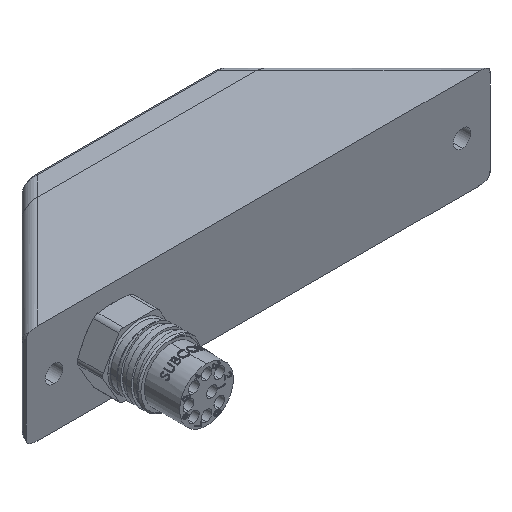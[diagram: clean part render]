
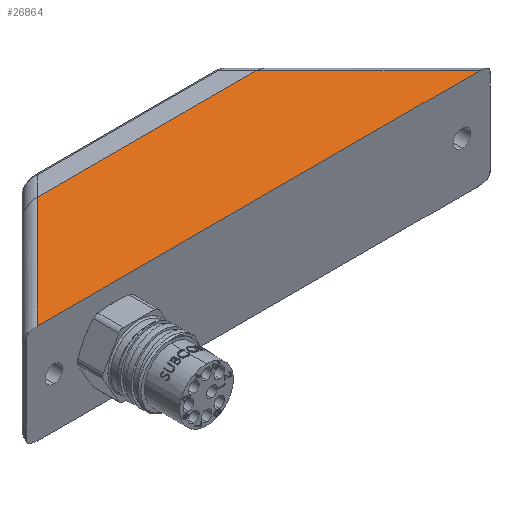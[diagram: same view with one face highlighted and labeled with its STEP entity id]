
A CAD part, isometric view. The second image highlights one B-rep face of the part: STEP entity #26864.
In plain terms, the highlighted planar face has unit normal (0, 0, 1).
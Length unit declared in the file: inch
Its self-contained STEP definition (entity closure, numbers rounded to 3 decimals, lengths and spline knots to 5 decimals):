
#646 = VERTEX_POINT ( 'NONE', #84250 ) ;
#4472 = PLANE ( 'NONE',  #93679 ) ;
#11428 = VERTEX_POINT ( 'NONE', #97855 ) ;
#13315 = DIRECTION ( 'NONE',  ( -1., 0., 0. ) ) ;
#16454 = EDGE_CURVE ( 'NONE', #89096, #646, #63560, .T. ) ;
#19714 = CARTESIAN_POINT ( 'NONE',  ( 0.08839, 2.66161, 0.5795 ) ) ;
#20548 = EDGE_CURVE ( 'NONE', #11428, #24188, #67138, .T. ) ;
#24188 = VERTEX_POINT ( 'NONE', #31524 ) ;
#26864 = ADVANCED_FACE ( 'NONE', ( #34728 ), #4472, .F. ) ;
#29825 = CARTESIAN_POINT ( 'NONE',  ( -0.08839, 2.66161, 0.5795 ) ) ;
#31524 = CARTESIAN_POINT ( 'NONE',  ( -1.27322, 1.3, 0.5795 ) ) ;
#34728 = FACE_OUTER_BOUND ( 'NONE', #80522, .T. ) ;
#36236 = ORIENTED_EDGE ( 'NONE', *, *, #37592, .T. ) ;
#37592 = EDGE_CURVE ( 'NONE', #24188, #89096, #81440, .T. ) ;
#38265 = DIRECTION ( 'NONE',  ( -0.707, 0.707, 0. ) ) ;
#40383 = VECTOR ( 'NONE', #50144, 39.37008 ) ;
#45053 = ORIENTED_EDGE ( 'NONE', *, *, #20548, .T. ) ;
#46441 = ORIENTED_EDGE ( 'NONE', *, *, #16454, .T. ) ;
#48165 = VECTOR ( 'NONE', #65529, 39.37008 ) ;
#49381 = VECTOR ( 'NONE', #66644, 39.37008 ) ;
#50144 = DIRECTION ( 'NONE',  ( -0.707, -0.707, 0. ) ) ;
#57646 = DIRECTION ( 'NONE',  ( 0., 0., -1. ) ) ;
#62985 = VECTOR ( 'NONE', #38265, 39.37008 ) ;
#63560 = LINE ( 'NONE', #87897, #48165 ) ;
#65529 = DIRECTION ( 'NONE',  ( 1., 0., 0. ) ) ;
#66644 = DIRECTION ( 'NONE',  ( -1., 0., 0. ) ) ;
#67138 = LINE ( 'NONE', #91476, #49381 ) ;
#80522 = EDGE_LOOP ( 'NONE', ( #45053, #36236, #46441, #84386 ) ) ;
#81440 = LINE ( 'NONE', #19714, #40383 ) ;
#82668 = EDGE_CURVE ( 'NONE', #646, #11428, #98070, .T. ) ;
#84250 = CARTESIAN_POINT ( 'NONE',  ( 2.57322, 0., 0.5795 ) ) ;
#84386 = ORIENTED_EDGE ( 'NONE', *, *, #82668, .T. ) ;
#86492 = CARTESIAN_POINT ( 'NONE',  ( -2.57322, 0., 0.5795 ) ) ;
#87897 = CARTESIAN_POINT ( 'NONE',  ( -2.75, 0., 0.5795 ) ) ;
#87994 = CARTESIAN_POINT ( 'NONE',  ( 0., 2.75, 0.5795 ) ) ;
#89096 = VERTEX_POINT ( 'NONE', #86492 ) ;
#91476 = CARTESIAN_POINT ( 'NONE',  ( -1.45, 1.3, 0.5795 ) ) ;
#93679 = AXIS2_PLACEMENT_3D ( 'NONE', #87994, #57646, #13315 ) ;
#97855 = CARTESIAN_POINT ( 'NONE',  ( 1.27322, 1.3, 0.5795 ) ) ;
#98070 = LINE ( 'NONE', #29825, #62985 ) ;
